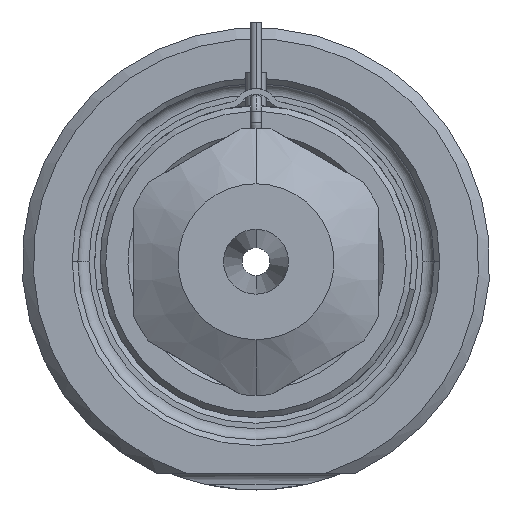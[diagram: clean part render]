
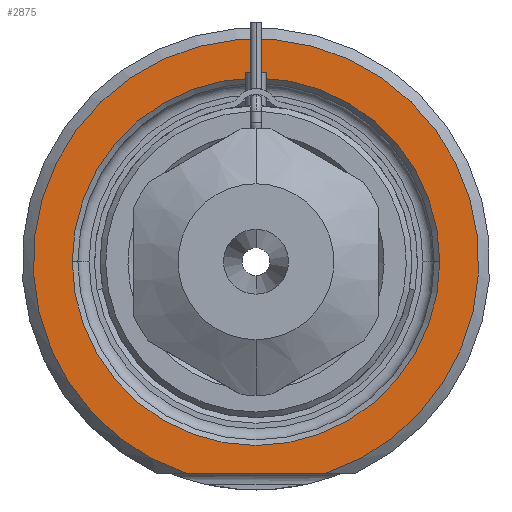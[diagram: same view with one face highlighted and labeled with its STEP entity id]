
A CAD part, front view. The second image highlights one B-rep face of the part: STEP entity #2875.
In plain terms, the highlighted planar face has unit normal (0, -1, 0).
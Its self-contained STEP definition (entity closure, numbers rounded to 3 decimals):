
#1=DIRECTION('',(1.,0.,0.));
#2=VECTOR('',#1,12.49);
#3=CARTESIAN_POINT('',(-6.245,0.,-19.));
#4=LINE('',#3,#2);
#5=CARTESIAN_POINT('',(0.,0.,0.));
#6=DIRECTION('',(0.,1.,0.));
#7=DIRECTION('',(-1.,0.,0.));
#8=AXIS2_PLACEMENT_3D('',#5,#6,#7);
#10=CARTESIAN_POINT('',(0.,0.,0.));
#11=DIRECTION('',(0.,1.,0.));
#12=DIRECTION('',(1.,0.,0.));
#13=AXIS2_PLACEMENT_3D('',#10,#11,#12);
#119=CARTESIAN_POINT('',(0.,0.,0.));
#120=DIRECTION('',(0.,-1.,0.));
#121=DIRECTION('',(0.312,0.,-0.95));
#122=AXIS2_PLACEMENT_3D('',#119,#120,#121);
#2396=CARTESIAN_POINT('',(-16.5,0.,0.));
#2397=CARTESIAN_POINT('',(16.5,0.,0.));
#2398=VERTEX_POINT('',#2396);
#2399=VERTEX_POINT('',#2397);
#2436=CARTESIAN_POINT('',(-6.245,0.,-19.));
#2437=CARTESIAN_POINT('',(6.245,0.,-19.));
#2438=VERTEX_POINT('',#2436);
#2439=VERTEX_POINT('',#2437);
#2858=CARTESIAN_POINT('',(0.,0.,0.));
#2859=DIRECTION('',(0.,-1.,0.));
#2860=DIRECTION('',(1.,0.,0.));
#2861=AXIS2_PLACEMENT_3D('',#2858,#2859,#2860);
#2862=PLANE('',#2861);
#2864=ORIENTED_EDGE('',*,*,#2863,.F.);
#2866=ORIENTED_EDGE('',*,*,#2865,.F.);
#2867=EDGE_LOOP('',(#2864,#2866));
#2868=FACE_OUTER_BOUND('',#2867,.F.);
#2870=ORIENTED_EDGE('',*,*,#2869,.F.);
#2872=ORIENTED_EDGE('',*,*,#2871,.F.);
#2873=EDGE_LOOP('',(#2870,#2872));
#2874=FACE_BOUND('',#2873,.F.);
#2875=ADVANCED_FACE('',(#2868,#2874),#2862,.T.);
#9=CIRCLE('',#8,16.5);
#14=CIRCLE('',#13,16.5);
#123=CIRCLE('',#122,20.);
#2863=EDGE_CURVE('',#2438,#2439,#4,.T.);
#2865=EDGE_CURVE('',#2439,#2438,#123,.T.);
#2869=EDGE_CURVE('',#2398,#2399,#9,.T.);
#2871=EDGE_CURVE('',#2399,#2398,#14,.T.);
